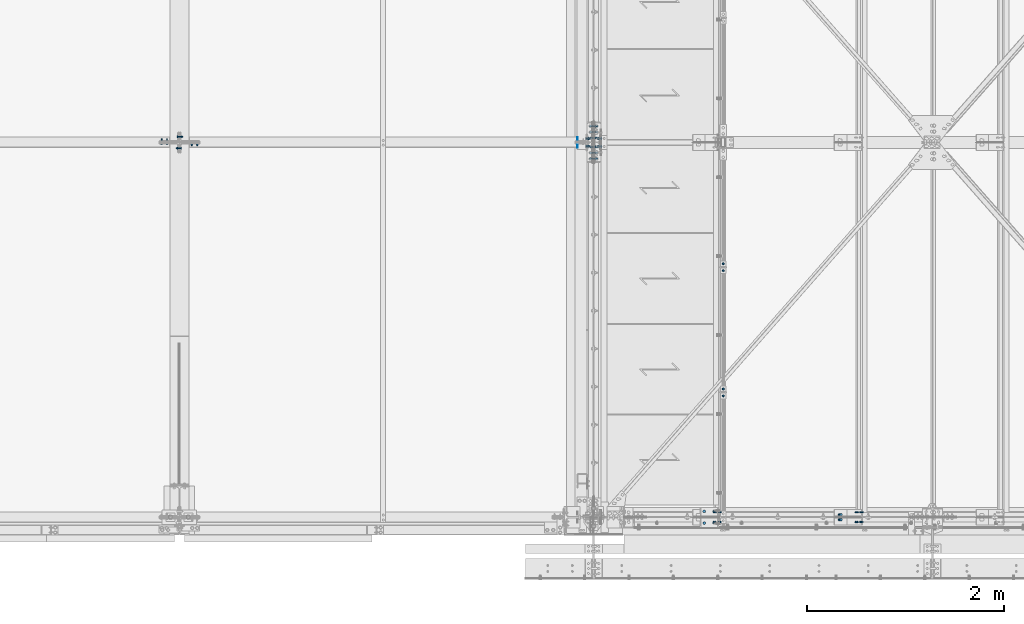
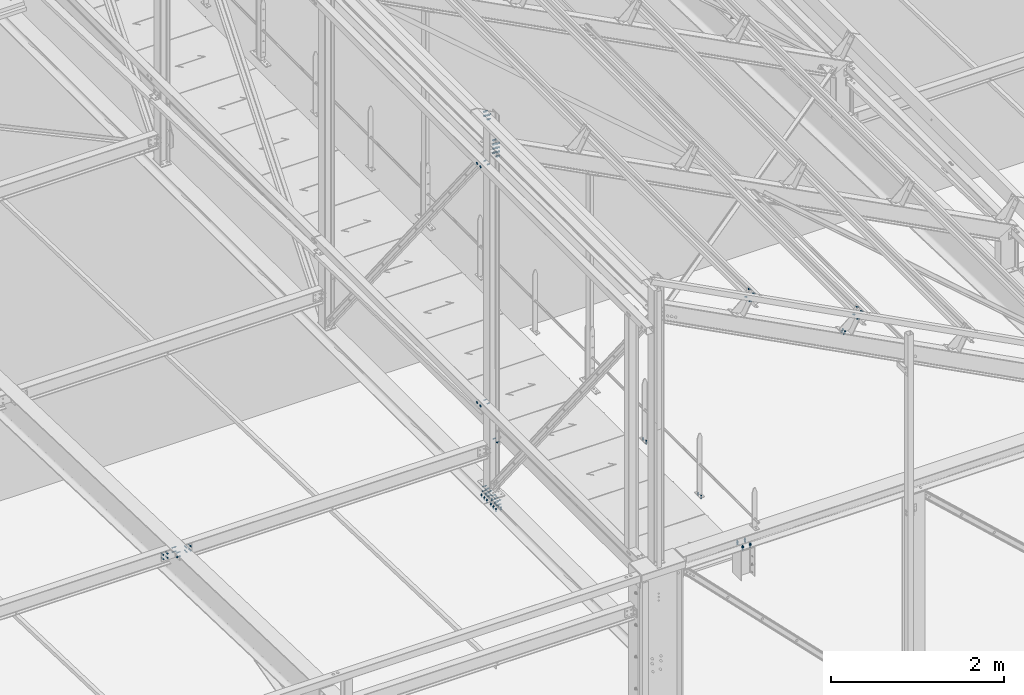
# One storey, part 147 of 362: 22 mechanical fasteners.
"""IFC2X3 building model written with IfcOpenShell, lengths in millimetres."""

from ifc_helpers import new_model, si_unit, frame, origin_with_axes, origin_2d_with_axis, place, context, subcontext, project, spatial, polyline, circle, outline, extrude, source, transform, mapped, material, type_object, element, save


model = new_model("IFC2X3")

# Units and contexts
model_context = context("Model", 3, precision=1e-05, world=origin_with_axes())
body_context = subcontext(model_context, "Body", "Model", "MODEL_VIEW")
ifc_project = project(units=[si_unit("LENGTHUNIT", "METRE", prefix="MILLI"), si_unit("AREAUNIT", "SQUARE_METRE"), si_unit("VOLUMEUNIT", "CUBIC_METRE"), si_unit("MASSUNIT", "GRAM", prefix="KILO"), si_unit("TIMEUNIT", "SECOND"), si_unit("PLANEANGLEUNIT", "RADIAN"), si_unit("SOLIDANGLEUNIT", "STERADIAN"), si_unit("THERMODYNAMICTEMPERATUREUNIT", "DEGREE_CELSIUS"), si_unit("LUMINOUSINTENSITYUNIT", "LUMEN")], contexts=[model_context])

# Site, building, storey
site_placement = place(None, origin_with_axes())
site = spatial("IfcSite", under=ifc_project, at=site_placement, Name="Undefined", CompositionType="ELEMENT")
building_placement = place(site_placement, origin_with_axes())
building = spatial("IfcBuilding", under=site, at=building_placement, Name="Undefined", CompositionType="ELEMENT")
storey_placement = place(building_placement, origin_with_axes())
storey = spatial("IfcBuildingStorey", under=building, at=storey_placement, Name="Undefined", CompositionType="ELEMENT", Elevation=0.0)

# Mechanical fasteners
ifc_material_1 = material(Name="6.8")
mechanical_fastener_type = type_object("IfcMechanicalFastenerType", Name="Bolt assembly")
shared_shape_1 = source(origin_with_axes(), body_context, "Body", "SweptSolid", [
    extrude(circle(Radius=15.0, at=origin_2d_with_axis()), frame((0.0, 0.0, 0.0), z_axis=(0.0, 1.0, 0.0), x_axis=(1.0, 0.0, 0.0)), (0.0, 0.0, 1.0), 4.1),
])
mechanical_fastener_1_placement = place(storey_placement, frame((12513.5000000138, 3800.0, 11870.0), z_axis=(0.0, 1.0, 0.0), x_axis=(0.0, 0.0, 1.0)))
element("IfcMechanicalFastener", 1, at=mechanical_fastener_1_placement, inside=storey, type_object=mechanical_fastener_type, material=ifc_material_1, Name="Bolt assembly", NominalDiameter=30.0, NominalLength=4.0, context=body_context, shape_type="MappedRepresentation", body=[
    mapped(shared_shape_1, transform((0.0, 0.0, 40.0))),
    mapped(shared_shape_1, transform((0.0, 0.0, -40.0))),
])
mechanical_fastener_2_placement = place(storey_placement, frame((12513.5000000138, 3800.0, 8500.0), z_axis=(0.0, -1.0, 0.0), x_axis=(0.0, 0.0, -1.0)))
element("IfcMechanicalFastener", 2, at=mechanical_fastener_2_placement, inside=storey, type_object=mechanical_fastener_type, material=ifc_material_1, Name="Bolt assembly", NominalDiameter=30.0, NominalLength=4.0, context=body_context, shape_type="MappedRepresentation", body=[
    mapped(shared_shape_1, transform((0.0, 0.0, -40.0))),
    mapped(shared_shape_1, transform((0.0, 0.0, 40.0))),
])
ifc_material_2 = material(Name="8.8-SB-ZINGUE")
shared_shape_2 = source(origin_with_axes(), body_context, "Body", "SweptSolid", [
    extrude(circle(Radius=7.0, at=origin_2d_with_axis()), frame((0.0, -10.0000010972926, 0.0), z_axis=(0.0, 1.0, 0.0), x_axis=(1.0, 0.0, 0.0)), (0.0, 0.0, 1.0), 10.1),
    extrude(outline(polyline([(10.39230484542, 0.0), (5.19615242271, 9.00000000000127), (-5.19615242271, 9.00000000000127), (-10.39230484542, 0.0), (-5.19615242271, -9.00000000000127), (5.19615242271, -9.00000000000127), (10.39230484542, 0.0)])), frame((0.0, -17.92, 0.0), z_axis=(0.0, 1.0, 0.0), x_axis=(1.0, 0.0, 0.0)), (0.0, 0.0, 1.0), 7.92),
    extrude(circle(Radius=6.0, at=origin_2d_with_axis()), frame((0.0, -10.0000010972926, 0.0), z_axis=(0.0, 1.0, 0.0), x_axis=(1.0, 0.0, 0.0)), (0.0, 0.0, 1.0), 40.0),
    extrude(outline(polyline([(11.5008173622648, 0.0), (5.7504086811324, 9.96000000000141), (-5.7504086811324, 9.96000000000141), (-11.5008173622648, 0.0), (-5.7504086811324, -9.96000000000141), (5.7504086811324, -9.96000000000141), (11.5008173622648, 0.0)])), frame((0.0, 0.0, 0.0), z_axis=(0.0, 1.0, 0.0), x_axis=(1.0, 0.0, 0.0)), (0.0, 0.0, 1.0), 7.92),
])
for number, where, z_axis, x_axis, name in (
    (3, (13993.9998835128, 1230.00344717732, 8240.00000643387), (-1.0, 0.0, 0.0), (0.0, 1.0, 0.0), "Bolt assembly"),
    (4, (13993.999884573, 2500.00344715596, 8240.00000555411), (-1.0, 0.0, 0.0), (0.0, 1.0, 0.0), "Bolt assembly"),
):
    element("IfcMechanicalFastener", number, at=place(storey_placement, frame(where, z_axis=z_axis, x_axis=x_axis)), inside=storey, type_object=mechanical_fastener_type, material=ifc_material_2, Name=name, NominalDiameter=12.0, NominalLength=40.0, context=body_context, shape_type="MappedRepresentation", body=[
        mapped(shared_shape_2, transform((0.0, 0.0, 0.0))),
        mapped(shared_shape_2, transform((70.0, -2.91038304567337e-11, 2.18278728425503e-10))),
    ])
shared_shape_3 = source(origin_with_axes(), body_context, "Body", "SweptSolid", [
    extrude(circle(Radius=7.0, at=origin_2d_with_axis()), frame((0.0, -0.091713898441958, 0.0), z_axis=(0.0, 1.0, 0.0), x_axis=(1.0, 0.0, 0.0)), (0.0, 0.0, 1.0), 8.6),
    extrude(circle(Radius=7.0, at=origin_2d_with_axis()), frame((0.0, -6.9, 0.0), z_axis=(0.0, 1.0, 0.0), x_axis=(1.0, 0.0, 0.0)), (0.0, 0.0, 1.0), 7.0),
    extrude(outline(polyline([(10.39230484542, 0.0), (5.19615242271, 9.00000000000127), (-5.19615242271, 9.00000000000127), (-10.39230484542, 0.0), (-5.19615242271, -9.00000000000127), (5.19615242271, -9.00000000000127), (10.39230484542, 0.0)])), frame((0.0, -14.92, 0.0), z_axis=(0.0, 1.0, 0.0), x_axis=(1.0, 0.0, 0.0)), (0.0, 0.0, 1.0), 7.92),
    extrude(circle(Radius=6.0, at=origin_2d_with_axis()), frame((0.0, -7.0, 0.0), z_axis=(0.0, 1.0, 0.0), x_axis=(1.0, 0.0, 0.0)), (0.0, 0.0, 1.0), 30.0),
    extrude(outline(polyline([(11.5008173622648, 0.0), (5.7504086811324, 9.96000000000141), (-5.7504086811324, 9.96000000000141), (-11.5008173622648, 0.0), (-5.7504086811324, -9.96000000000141), (5.7504086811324, -9.96000000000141), (11.5008173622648, 0.0)])), frame((0.0, 8.50828610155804, 0.0), z_axis=(0.0, 1.0, 0.0), x_axis=(1.0, 0.0, 0.0)), (0.0, 0.0, 1.0), 7.92),
])
mechanical_fastener_3_placement = place(storey_placement, frame((12746.5082861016, 3799.99999998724, 7910.00000000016), z_axis=(0.0, -1.0, 0.0), x_axis=(0.0, 0.0, 1.0)))
element("IfcMechanicalFastener", 5, at=mechanical_fastener_3_placement, inside=storey, type_object=mechanical_fastener_type, material=ifc_material_2, Name="Bolt assembly", NominalDiameter=12.0, NominalLength=30.0, context=body_context, shape_type="MappedRepresentation", body=[
    mapped(shared_shape_3, transform((0.0, 0.0, -40.0))),
    mapped(shared_shape_3, transform((0.0, 0.0, 40.0))),
])
shared_shape_4 = source(origin_with_axes(), body_context, "Body", "SweptSolid", [
    extrude(circle(Radius=7.0, at=origin_2d_with_axis()), frame((0.0, -4.69999899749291, 0.0), z_axis=(0.0, 1.0, 0.0), x_axis=(1.0, 0.0, 0.0)), (0.0, 0.0, 1.0), 9.4),
    extrude(circle(Radius=7.0, at=origin_2d_with_axis()), frame((0.0, 4.9000000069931, 0.0), z_axis=(0.0, 1.0, 0.0), x_axis=(1.0, 0.0, 0.0)), (0.0, 0.0, 1.0), 10.1),
    extrude(circle(Radius=7.0, at=origin_2d_with_axis()), frame((0.0, -14.899999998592, 0.0), z_axis=(0.0, 1.0, 0.0), x_axis=(1.0, 0.0, 0.0)), (0.0, 0.0, 1.0), 10.0),
    extrude(outline(polyline([(10.39230484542, 0.0), (5.19615242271, 9.00000000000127), (-5.19615242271, 9.00000000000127), (-10.39230484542, 0.0), (-5.19615242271, -9.00000000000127), (5.19615242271, -9.00000000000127), (10.39230484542, 0.0)])), frame((0.0, -22.919999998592, 0.0), z_axis=(0.0, 1.0, 0.0), x_axis=(1.0, 0.0, 0.0)), (0.0, 0.0, 1.0), 7.92),
    extrude(circle(Radius=6.0, at=origin_2d_with_axis()), frame((0.0, -14.999999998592, 0.0), z_axis=(0.0, 1.0, 0.0), x_axis=(1.0, 0.0, 0.0)), (0.0, 0.0, 1.0), 50.0),
    extrude(outline(polyline([(11.5008173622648, 0.0), (5.7504086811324, 9.96000000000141), (-5.7504086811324, 9.96000000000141), (-11.5008173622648, 0.0), (-5.7504086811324, -9.96000000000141), (5.7504086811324, -9.96000000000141), (11.5008173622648, 0.0)])), frame((0.0, 15.0000000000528, 0.0), z_axis=(0.0, 1.0, 0.0), x_axis=(1.0, 0.0, 0.0)), (0.0, 0.0, 1.0), 7.92),
])
mechanical_fastener_4_placement = place(storey_placement, frame((8480.0, 3857.97780378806, 7828.70871980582), z_axis=(7.58071938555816e-11, 0.0314107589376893, 0.999506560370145), x_axis=(0.0, -0.999506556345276, 0.031410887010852)))
element("IfcMechanicalFastener", 6, at=mechanical_fastener_4_placement, inside=storey, type_object=mechanical_fastener_type, material=ifc_material_2, Name="Bolt assembly", NominalDiameter=12.0, NominalLength=50.0, context=body_context, shape_type="MappedRepresentation", body=[
    mapped(shared_shape_4, transform((0.0, 0.0, -30.0))),
    mapped(shared_shape_4, transform((0.0, 0.0, 30.0))),
])
shared_shape_5 = source(origin_with_axes(), body_context, "Body", "SweptSolid", [
    extrude(circle(Radius=7.0, at=origin_2d_with_axis()), frame((0.0, -5.60090332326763, 0.0), z_axis=(0.0, 1.0, 0.0), x_axis=(1.0, 0.0, 0.0)), (0.0, 0.0, 1.0), 5.6),
    extrude(circle(Radius=7.0, at=origin_2d_with_axis()), frame((0.0, -15.7008623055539, 0.0), z_axis=(0.0, 1.0, 0.0), x_axis=(1.0, 0.0, 0.0)), (0.0, 0.0, 1.0), 10.0),
    extrude(circle(Radius=7.0, at=origin_2d_with_axis()), frame((0.0, 0.1, 0.0), z_axis=(0.0, 1.0, 0.0), x_axis=(1.0, 0.0, 0.0)), (0.0, 0.0, 1.0), 10.1),
    extrude(outline(polyline([(10.39230484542, 0.0), (5.19615242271, 9.00000000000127), (-5.19615242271, 9.00000000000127), (-10.39230484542, 0.0), (-5.19615242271, -9.00000000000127), (5.19615242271, -9.00000000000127), (10.39230484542, 0.0)])), frame((0.0, -23.7208623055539, 0.0), z_axis=(0.0, 1.0, 0.0), x_axis=(1.0, 0.0, 0.0)), (0.0, 0.0, 1.0), 7.92),
    extrude(circle(Radius=6.0, at=origin_2d_with_axis()), frame((0.0, -15.8008623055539, 0.0), z_axis=(0.0, 1.0, 0.0), x_axis=(1.0, 0.0, 0.0)), (0.0, 0.0, 1.0), 50.0),
    extrude(outline(polyline([(11.5008173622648, 0.0), (5.7504086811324, 9.96000000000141), (-5.7504086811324, 9.96000000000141), (-11.5008173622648, 0.0), (-5.7504086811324, -9.96000000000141), (5.7504086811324, -9.96000000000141), (11.5008173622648, 0.0)])), frame((0.0, 10.1999997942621, 0.0), z_axis=(0.0, 1.0, 0.0), x_axis=(1.0, 0.0, 0.0)), (0.0, 0.0, 1.0), 7.92),
])
mechanical_fastener_5_placement = place(storey_placement, frame((8300.00000000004, 3802.80504263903, 7830.44262439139), z_axis=(7.58071938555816e-11, 0.0314107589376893, 0.999506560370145), x_axis=(1.0, 0.0, 0.0)))
element("IfcMechanicalFastener", 7, at=mechanical_fastener_5_placement, inside=storey, type_object=mechanical_fastener_type, material=ifc_material_2, Name="Bolt assembly", NominalDiameter=12.0, NominalLength=50.0, context=body_context, shape_type="MappedRepresentation", body=[
    mapped(shared_shape_5, transform((0.0, 0.0, -30.0))),
    mapped(shared_shape_5, transform((55.0000000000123, 3.45607986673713e-11, -30.0000000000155))),
    mapped(shared_shape_5, transform((0.0, 0.0, 30.0))),
    mapped(shared_shape_5, transform((54.9999999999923, 3.45607986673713e-11, 29.9999999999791))),
])
shared_shape_6 = source(origin_with_axes(), body_context, "Body", "SweptSolid", [
    extrude(circle(Radius=7.0, at=origin_2d_with_axis()), frame((0.0, -4.69999899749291, 0.0), z_axis=(0.0, 1.0, 0.0), x_axis=(1.0, 0.0, 0.0)), (0.0, 0.0, 1.0), 9.4),
    extrude(circle(Radius=7.0, at=origin_2d_with_axis()), frame((0.0, -14.899999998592, 0.0), z_axis=(0.0, 1.0, 0.0), x_axis=(1.0, 0.0, 0.0)), (0.0, 0.0, 1.0), 10.0),
    extrude(circle(Radius=7.0, at=origin_2d_with_axis()), frame((0.0, 4.9000000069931, 0.0), z_axis=(0.0, 1.0, 0.0), x_axis=(1.0, 0.0, 0.0)), (0.0, 0.0, 1.0), 10.1),
    extrude(outline(polyline([(10.39230484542, 0.0), (5.19615242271, 9.00000000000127), (-5.19615242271, 9.00000000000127), (-10.39230484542, 0.0), (-5.19615242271, -9.00000000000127), (5.19615242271, -9.00000000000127), (10.39230484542, 0.0)])), frame((0.0, -22.919999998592, 0.0), z_axis=(0.0, 1.0, 0.0), x_axis=(1.0, 0.0, 0.0)), (0.0, 0.0, 1.0), 7.92),
    extrude(circle(Radius=6.0, at=origin_2d_with_axis()), frame((0.0, -14.999999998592, 0.0), z_axis=(0.0, 1.0, 0.0), x_axis=(1.0, 0.0, 0.0)), (0.0, 0.0, 1.0), 50.0),
    extrude(outline(polyline([(11.5008173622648, 0.0), (5.7504086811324, 9.96000000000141), (-5.7504086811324, 9.96000000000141), (-11.5008173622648, 0.0), (-5.7504086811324, -9.96000000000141), (5.7504086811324, -9.96000000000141), (11.5008173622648, 0.0)])), frame((0.0, 15.0000000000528, 0.0), z_axis=(0.0, 1.0, 0.0), x_axis=(1.0, 0.0, 0.0)), (0.0, 0.0, 1.0), 7.92),
])
mechanical_fastener_6_placement = place(storey_placement, frame((8480.0, 3742.03418260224, 7832.35244818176), z_axis=(7.58071938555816e-11, 0.0314107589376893, 0.999506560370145), x_axis=(3.14103090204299e-11, 0.999506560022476, -0.0314107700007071)))
element("IfcMechanicalFastener", 8, at=mechanical_fastener_6_placement, inside=storey, type_object=mechanical_fastener_type, material=ifc_material_2, Name="Bolt assembly", NominalDiameter=12.0, NominalLength=50.0, context=body_context, shape_type="MappedRepresentation", body=[
    mapped(shared_shape_6, transform((0.0, 0.0, -30.0))),
    mapped(shared_shape_6, transform((0.0, 0.0, 30.0))),
])
shared_shape_7 = source(origin_with_axes(), body_context, "Body", "SweptSolid", [
    extrude(circle(Radius=7.0, at=origin_2d_with_axis()), frame((0.0, -5.59995888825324, 0.0), z_axis=(0.0, 1.0, 0.0), x_axis=(1.0, 0.0, 0.0)), (0.0, 0.0, 1.0), 5.6),
    extrude(circle(Radius=7.0, at=origin_2d_with_axis()), frame((0.0, 0.1, 0.0), z_axis=(0.0, 1.0, 0.0), x_axis=(1.0, 0.0, 0.0)), (0.0, 0.0, 1.0), 10.1),
    extrude(circle(Radius=7.0, at=origin_2d_with_axis()), frame((0.0, -15.7008623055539, 0.0), z_axis=(0.0, 1.0, 0.0), x_axis=(1.0, 0.0, 0.0)), (0.0, 0.0, 1.0), 10.0),
    extrude(outline(polyline([(10.39230484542, 0.0), (5.19615242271, 9.00000000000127), (-5.19615242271, 9.00000000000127), (-10.39230484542, 0.0), (-5.19615242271, -9.00000000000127), (5.19615242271, -9.00000000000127), (10.39230484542, 0.0)])), frame((0.0, -23.7208623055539, 0.0), z_axis=(0.0, 1.0, 0.0), x_axis=(1.0, 0.0, 0.0)), (0.0, 0.0, 1.0), 7.92),
    extrude(circle(Radius=6.0, at=origin_2d_with_axis()), frame((0.0, -15.8008623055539, 0.0), z_axis=(0.0, 1.0, 0.0), x_axis=(1.0, 0.0, 0.0)), (0.0, 0.0, 1.0), 50.0),
    extrude(outline(polyline([(11.5008173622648, 0.0), (5.7504086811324, 9.96000000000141), (-5.7504086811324, 9.96000000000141), (-11.5008173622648, 0.0), (-5.7504086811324, -9.96000000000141), (5.7504086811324, -9.96000000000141), (11.5008173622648, 0.0)])), frame((0.0, 10.1999997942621, 0.0), z_axis=(0.0, 1.0, 0.0), x_axis=(1.0, 0.0, 0.0)), (0.0, 0.0, 1.0), 7.92),
])
mechanical_fastener_7_placement = place(storey_placement, frame((8660.0, 3797.20694410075, 7830.61855429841), z_axis=(7.58071938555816e-11, 0.0314107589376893, 0.999506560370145), x_axis=(-1.0, 0.0, 0.0)))
element("IfcMechanicalFastener", 9, at=mechanical_fastener_7_placement, inside=storey, type_object=mechanical_fastener_type, material=ifc_material_2, Name="Bolt assembly", NominalDiameter=12.0, NominalLength=50.0, context=body_context, shape_type="MappedRepresentation", body=[
    mapped(shared_shape_7, transform((0.0, 0.0, -30.0))),
    mapped(shared_shape_7, transform((55.0000000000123, 3.45607986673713e-11, -30.0000000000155))),
    mapped(shared_shape_7, transform((0.0, 0.0, 30.0))),
    mapped(shared_shape_7, transform((54.9999999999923, 3.45607986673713e-11, 29.9999999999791))),
])
shared_shape_8 = source(origin_with_axes(), body_context, "Body", "SweptSolid", [
    extrude(circle(Radius=9.0, at=origin_2d_with_axis()), frame((0.0, -0.100011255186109, 0.0), z_axis=(0.0, 1.0, 0.0), x_axis=(1.0, 0.0, 0.0)), (0.0, 0.0, 1.0), 10.1),
    extrude(circle(Radius=9.0, at=origin_2d_with_axis()), frame((0.0, -9.9, 0.0), z_axis=(0.0, 1.0, 0.0), x_axis=(1.0, 0.0, 0.0)), (0.0, 0.0, 1.0), 10.0),
    extrude(outline(polyline([(13.85640646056, 0.0), (6.92820323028, 12.0000000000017), (-6.92820323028, 12.0000000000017), (-13.85640646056, 0.0), (-6.92820323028, -12.0000000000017), (6.92820323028, -12.0000000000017), (13.85640646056, 0.0)])), frame((0.0, -20.5600000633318, 0.0), z_axis=(0.0, 1.0, 0.0), x_axis=(1.0, 0.0, 0.0)), (0.0, 0.0, 1.0), 10.56),
    extrude(circle(Radius=8.0, at=origin_2d_with_axis()), frame((0.0, -10.0000010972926, 0.0), z_axis=(0.0, 1.0, 0.0), x_axis=(1.0, 0.0, 0.0)), (0.0, 0.0, 1.0), 50.0),
    extrude(circle(Radius=14.4, at=origin_2d_with_axis()), frame((0.0, 10.0000000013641, 0.0), z_axis=(0.0, 1.0, 0.0), x_axis=(1.0, 0.0, 0.0)), (0.0, 0.0, 1.0), 5.28),
    extrude(outline(polyline([(15.3344231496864, 0.0), (7.6672115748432, 13.2800000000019), (-7.6672115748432, 13.2800000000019), (-15.3344231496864, 0.0), (-7.6672115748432, -13.2800000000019), (7.6672115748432, -13.2800000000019), (15.3344231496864, 0.0)])), frame((0.0, 15.2800000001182, 0.0), z_axis=(0.0, 1.0, 0.0), x_axis=(1.0, 0.0, 0.0)), (0.0, 0.0, 1.0), 10.56),
])
mechanical_fastener_8_placement = place(storey_placement, frame((13801.4998863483, 0.0, 8359.99525820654), z_axis=(0.0, -1.0, 0.0), x_axis=(1.0, 0.0, 0.0)))
element("IfcMechanicalFastener", 10, at=mechanical_fastener_8_placement, inside=storey, type_object=mechanical_fastener_type, material=ifc_material_2, Name="Bolt assembly", NominalDiameter=16.0, NominalLength=50.0, context=body_context, shape_type="MappedRepresentation", body=[
    mapped(shared_shape_8, transform((0.0, 0.0, -60.0))),
    mapped(shared_shape_8, transform((99.9999999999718, 0.0, -60.0000000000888))),
    mapped(shared_shape_8, transform((0.0, 0.0, 60.0))),
    mapped(shared_shape_8, transform((100.000000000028, 0.0, 59.9999999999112))),
])
shared_shape_9 = source(origin_with_axes(), body_context, "Body", "SweptSolid", [
    extrude(circle(Radius=7.0, at=origin_2d_with_axis()), frame((0.0, -0.100011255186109, 0.0), z_axis=(0.0, 1.0, 0.0), x_axis=(1.0, 0.0, 0.0)), (0.0, 0.0, 1.0), 1.6),
    extrude(circle(Radius=7.0, at=origin_2d_with_axis()), frame((0.0, -9.9, 0.0), z_axis=(0.0, 1.0, 0.0), x_axis=(1.0, 0.0, 0.0)), (0.0, 0.0, 1.0), 10.0),
    extrude(outline(polyline([(10.39230484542, 0.0), (5.19615242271, 9.00000000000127), (-5.19615242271, 9.00000000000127), (-10.39230484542, 0.0), (-5.19615242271, -9.00000000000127), (5.19615242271, -9.00000000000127), (10.39230484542, 0.0)])), frame((0.0, -17.92, 0.0), z_axis=(0.0, 1.0, 0.0), x_axis=(1.0, 0.0, 0.0)), (0.0, 0.0, 1.0), 7.92),
    extrude(circle(Radius=6.0, at=origin_2d_with_axis()), frame((0.0, -10.0000010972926, 0.0), z_axis=(0.0, 1.0, 0.0), x_axis=(1.0, 0.0, 0.0)), (0.0, 0.0, 1.0), 30.0),
    extrude(outline(polyline([(11.5008173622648, 0.0), (5.7504086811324, 9.96000000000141), (-5.7504086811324, 9.96000000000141), (-11.5008173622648, 0.0), (-5.7504086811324, -9.96000000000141), (5.7504086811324, -9.96000000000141), (11.5008173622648, 0.0)])), frame((0.0, 1.50001896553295, 0.0), z_axis=(0.0, 1.0, 0.0), x_axis=(1.0, 0.0, 0.0)), (0.0, 0.0, 1.0), 7.92),
])
for number, where, z_axis, x_axis, name in (
    (11, (13910.5352247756, 5.9655603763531e-05, 11798.7689104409), (0.0, 1.0, 0.0), (0.463528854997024, 6.99999093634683e-09, 0.886081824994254), "Bolt assembly"),
    (12, (15347.8352673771, 5.9655603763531e-05, 11046.8866202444), (0.0, 1.0, 0.0), (0.463528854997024, 6.99999093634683e-09, 0.886081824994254), "Bolt assembly"),
):
    element("IfcMechanicalFastener", number, at=place(storey_placement, frame(where, z_axis=z_axis, x_axis=x_axis)), inside=storey, type_object=mechanical_fastener_type, material=ifc_material_2, Name=name, NominalDiameter=12.0, NominalLength=30.0, context=body_context, shape_type="MappedRepresentation", body=[
        mapped(shared_shape_9, transform((0.0, 0.0, -50.0))),
        mapped(shared_shape_9, transform((102.00000000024, -2.51020537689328e-10, -50.0))),
        mapped(shared_shape_9, transform((0.0, 0.0, 50.0))),
        mapped(shared_shape_9, transform((102.00000000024, -2.51020537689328e-10, 50.0))),
    ])
shared_shape_10 = source(origin_with_axes(), body_context, "Body", "SweptSolid", [
    extrude(circle(Radius=9.0, at=origin_2d_with_axis()), frame((0.0, -0.100011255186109, 0.0), z_axis=(0.0, 1.0, 0.0), x_axis=(1.0, 0.0, 0.0)), (0.0, 0.0, 1.0), 9.9),
    extrude(circle(Radius=9.0, at=origin_2d_with_axis()), frame((0.0, -9.9, 0.0), z_axis=(0.0, 1.0, 0.0), x_axis=(1.0, 0.0, 0.0)), (0.0, 0.0, 1.0), 10.0),
    extrude(outline(polyline([(13.85640646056, 0.0), (6.92820323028, 12.0000000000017), (-6.92820323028, 12.0000000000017), (-13.85640646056, 0.0), (-6.92820323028, -12.0000000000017), (6.92820323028, -12.0000000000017), (13.85640646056, 0.0)])), frame((0.0, -20.5600000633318, 0.0), z_axis=(0.0, 1.0, 0.0), x_axis=(1.0, 0.0, 0.0)), (0.0, 0.0, 1.0), 10.56),
    extrude(circle(Radius=8.0, at=origin_2d_with_axis()), frame((0.0, -10.0000010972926, 0.0), z_axis=(0.0, 1.0, 0.0), x_axis=(1.0, 0.0, 0.0)), (0.0, 0.0, 1.0), 40.0),
    extrude(outline(polyline([(15.3344231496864, 0.0), (7.6672115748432, 13.2800000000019), (-7.6672115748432, 13.2800000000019), (-15.3344231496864, 0.0), (-7.6672115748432, -13.2800000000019), (7.6672115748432, -13.2800000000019), (15.3344231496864, 0.0)])), frame((0.0, 9.80000019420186, 0.0), z_axis=(0.0, 1.0, 0.0), x_axis=(1.0, 0.0, 0.0)), (0.0, 0.0, 1.0), 10.56),
])
mechanical_fastener_9_placement = place(storey_placement, frame((15180.0712405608, 3.75141407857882e-05, 10898.7777524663), z_axis=(0.0, 1.0, 0.0), x_axis=(0.886081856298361, 3.500000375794e-08, -0.463528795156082)))
element("IfcMechanicalFastener", 13, at=mechanical_fastener_9_placement, inside=storey, type_object=mechanical_fastener_type, material=ifc_material_2, Name="Bolt assembly", NominalDiameter=16.0, NominalLength=40.0, context=body_context, shape_type="MappedRepresentation", body=[
    mapped(shared_shape_10, transform((0.0, 0.0, -25.0))),
    mapped(shared_shape_10, transform((0.0, 0.0, 25.0))),
])
shared_shape_11 = source(origin_with_axes(), body_context, "Body", "SweptSolid", [
    extrude(circle(Radius=9.0, at=origin_2d_with_axis()), frame((0.0, -0.091713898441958, 0.0), z_axis=(0.0, 1.0, 0.0), x_axis=(1.0, 0.0, 0.0)), (0.0, 0.0, 1.0), 8.6),
    extrude(circle(Radius=9.0, at=origin_2d_with_axis()), frame((0.0, -9.89171439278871, 0.0), z_axis=(0.0, 1.0, 0.0), x_axis=(1.0, 0.0, 0.0)), (0.0, 0.0, 1.0), 10.0),
    extrude(outline(polyline([(13.85640646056, 0.0), (6.92820323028, 12.0000000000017), (-6.92820323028, 12.0000000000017), (-13.85640646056, 0.0), (-6.92820323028, -12.0000000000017), (6.92820323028, -12.0000000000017), (13.85640646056, 0.0)])), frame((0.0, -20.5517143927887, 0.0), z_axis=(0.0, 1.0, 0.0), x_axis=(1.0, 0.0, 0.0)), (0.0, 0.0, 1.0), 10.56),
    extrude(circle(Radius=8.0, at=origin_2d_with_axis()), frame((0.0, -9.99171439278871, 0.0), z_axis=(0.0, 1.0, 0.0), x_axis=(1.0, 0.0, 0.0)), (0.0, 0.0, 1.0), 40.0),
    extrude(outline(polyline([(15.3344231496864, 0.0), (7.6672115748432, 13.2800000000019), (-7.6672115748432, 13.2800000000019), (-15.3344231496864, 0.0), (-7.6672115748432, -13.2800000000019), (7.6672115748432, -13.2800000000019), (15.3344231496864, 0.0)])), frame((0.0, 8.50828610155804, 0.0), z_axis=(0.0, 1.0, 0.0), x_axis=(1.0, 0.0, 0.0)), (0.0, 0.0, 1.0), 10.56),
])
mechanical_fastener_10_placement = place(storey_placement, frame((12746.5082856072, 3760.0, 12031.1720690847), z_axis=(0.0, 0.0, 1.0), x_axis=(0.0, 1.0, 0.0)))
element("IfcMechanicalFastener", 14, at=mechanical_fastener_10_placement, inside=storey, type_object=mechanical_fastener_type, material=ifc_material_2, Name="Bolt assembly", NominalDiameter=16.0, NominalLength=40.0, context=body_context, shape_type="MappedRepresentation", body=[
    mapped(shared_shape_11, transform((-8.00355337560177e-11, 1.57342583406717e-10, -90.000000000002))),
    mapped(shared_shape_11, transform((80.0, 0.0, -90.0))),
    mapped(shared_shape_11, transform((0.0, 0.0, -30.0))),
    mapped(shared_shape_11, transform((80.0, 0.0, -30.0))),
    mapped(shared_shape_11, transform((0.0, 0.0, 30.0))),
    mapped(shared_shape_11, transform((80.0, 0.0, 30.0))),
    mapped(shared_shape_11, transform((8.36735125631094e-11, -1.5825207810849e-10, 90.0))),
    mapped(shared_shape_11, transform((80.0, 0.0, 90.0))),
])
shared_shape_12 = source(origin_with_axes(), body_context, "Body", "SweptSolid", [
    extrude(circle(Radius=7.0, at=origin_2d_with_axis()), frame((0.0, -3.89999843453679, 0.0), z_axis=(0.0, 1.0, 0.0), x_axis=(1.0, 0.0, 0.0)), (0.0, 0.0, 1.0), 4.0),
    extrude(circle(Radius=7.0, at=origin_2d_with_axis()), frame((0.0, -0.100011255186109, 0.0), z_axis=(0.0, 1.0, 0.0), x_axis=(1.0, 0.0, 0.0)), (0.0, 0.0, 1.0), 8.6),
    extrude(outline(polyline([(10.39230484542, 0.0), (5.19615242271, 9.00000000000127), (-5.19615242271, 9.00000000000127), (-10.39230484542, 0.0), (-5.19615242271, -9.00000000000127), (5.19615242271, -9.00000000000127), (10.39230484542, 0.0)])), frame((0.0, -11.9199984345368, 0.0), z_axis=(0.0, 1.0, 0.0), x_axis=(1.0, 0.0, 0.0)), (0.0, 0.0, 1.0), 7.92),
    extrude(circle(Radius=6.0, at=origin_2d_with_axis()), frame((0.0, -3.99999923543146, 0.0), z_axis=(0.0, 1.0, 0.0), x_axis=(1.0, 0.0, 0.0)), (0.0, 0.0, 1.0), 30.0),
    extrude(outline(polyline([(11.5008173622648, 0.0), (5.7504086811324, 9.96000000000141), (-5.7504086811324, 9.96000000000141), (-11.5008173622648, 0.0), (-5.7504086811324, -9.96000000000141), (5.7504086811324, -9.96000000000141), (11.5008173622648, 0.0)])), frame((0.0, 8.49999994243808, 0.0), z_axis=(0.0, 1.0, 0.0), x_axis=(1.0, 0.0, 0.0)), (0.0, 0.0, 1.0), 7.92),
])
for number, where, z_axis, x_axis, name in (
    (15, (12613.5, 3800.0, 11869.9999981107), (0.0, 1.0, 0.0), (0.0, 0.0, 1.0), "Bolt assembly"),
    (16, (12613.5, 3800.0, 8500.00000188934), (0.0, -1.0, 0.0), (0.0, 0.0, -1.0), "Bolt assembly"),
):
    element("IfcMechanicalFastener", number, at=place(storey_placement, frame(where, z_axis=z_axis, x_axis=x_axis)), inside=storey, type_object=mechanical_fastener_type, material=ifc_material_2, Name=name, NominalDiameter=12.0, NominalLength=30.0, context=body_context, shape_type="MappedRepresentation", body=[
        mapped(shared_shape_12, transform((0.0, 0.0, -40.0))),
        mapped(shared_shape_12, transform((0.0, 0.0, 40.0))),
    ])
shared_shape_13 = source(origin_with_axes(), body_context, "Body", "SweptSolid", [
    extrude(circle(Radius=9.0, at=origin_2d_with_axis()), frame((0.0, -0.100011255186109, 0.0), z_axis=(0.0, 1.0, 0.0), x_axis=(1.0, 0.0, 0.0)), (0.0, 0.0, 1.0), 8.6),
    extrude(circle(Radius=9.0, at=origin_2d_with_axis()), frame((0.0, -2.9, 0.0), z_axis=(0.0, 1.0, 0.0), x_axis=(1.0, 0.0, 0.0)), (0.0, 0.0, 1.0), 3.0),
    extrude(outline(polyline([(13.85640646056, 0.0), (6.92820323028, 12.0000000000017), (-6.92820323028, 12.0000000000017), (-13.85640646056, 0.0), (-6.92820323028, -12.0000000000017), (6.92820323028, -12.0000000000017), (13.85640646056, 0.0)])), frame((0.0, -13.56, 0.0), z_axis=(0.0, 1.0, 0.0), x_axis=(1.0, 0.0, 0.0)), (0.0, 0.0, 1.0), 10.56),
    extrude(circle(Radius=8.0, at=origin_2d_with_axis()), frame((0.0, -2.99999932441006, 0.0), z_axis=(0.0, 1.0, 0.0), x_axis=(1.0, 0.0, 0.0)), (0.0, 0.0, 1.0), 40.0),
    extrude(outline(polyline([(15.3344231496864, 0.0), (7.6672115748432, 13.2800000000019), (-7.6672115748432, 13.2800000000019), (-15.3344231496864, 0.0), (-7.6672115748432, -13.2800000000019), (7.6672115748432, -13.2800000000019), (15.3344231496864, 0.0)])), frame((0.0, 8.49999994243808, 0.0), z_axis=(0.0, 1.0, 0.0), x_axis=(1.0, 0.0, 0.0)), (0.0, 0.0, 1.0), 10.56),
])
for number, where, z_axis, x_axis, name in (
    (17, (12613.5000000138, 3839.99695097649, 12503.832072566), (0.0, 1.0, 0.0), (0.0, 0.0, 1.0), "Bolt assembly"),
    (18, (12613.5000000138, 3759.99999584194, 12503.832072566), (0.0, 1.0, 0.0), (0.0, 0.0, 1.0), "Bolt assembly"),
):
    element("IfcMechanicalFastener", number, at=place(storey_placement, frame(where, z_axis=z_axis, x_axis=x_axis)), inside=storey, type_object=mechanical_fastener_type, material=ifc_material_2, Name=name, NominalDiameter=16.0, NominalLength=40.0, context=body_context, shape_type="MappedRepresentation", body=[
        mapped(shared_shape_13, transform((0.0, 0.0, 0.0))),
        mapped(shared_shape_13, transform((60.0, 0.0, 0.0))),
    ])
shared_shape_14 = source(origin_with_axes(), body_context, "Body", "SweptSolid", [
    extrude(circle(Radius=6.0, at=origin_2d_with_axis()), frame((0.0, -3.25000000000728, 0.0), z_axis=(0.0, 1.0, 0.0), x_axis=(1.0, 0.0, 0.0)), (0.0, 0.0, 1.0), 6.5),
    extrude(circle(Radius=6.0, at=origin_2d_with_axis()), frame((0.0, -13.4000000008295, 0.0), z_axis=(0.0, 1.0, 0.0), x_axis=(1.0, 0.0, 0.0)), (0.0, 0.0, 1.0), 10.0),
    extrude(circle(Radius=6.0, at=origin_2d_with_axis()), frame((0.0, 3.40000111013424, 0.0), z_axis=(0.0, 1.0, 0.0), x_axis=(1.0, 0.0, 0.0)), (0.0, 0.0, 1.0), 10.1),
    extrude(outline(polyline([(10.39230484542, 0.0), (5.19615242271, 9.00000000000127), (-5.19615242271, 9.00000000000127), (-10.39230484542, 0.0), (-5.19615242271, -9.00000000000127), (5.19615242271, -9.00000000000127), (10.39230484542, 0.0)])), frame((0.0, -21.42, 0.0), z_axis=(0.0, 1.0, 0.0), x_axis=(1.0, 0.0, 0.0)), (0.0, 0.0, 1.0), 7.92),
    extrude(circle(Radius=6.0, at=origin_2d_with_axis()), frame((0.0, -13.4999650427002, 0.0), z_axis=(0.0, 1.0, 0.0), x_axis=(1.0, 0.0, 0.0)), (0.0, 0.0, 1.0), 50.0),
    extrude(outline(polyline([(11.5008173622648, 0.0), (5.7504086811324, 9.96000000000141), (-5.7504086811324, 9.96000000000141), (-11.5008173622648, 0.0), (-5.7504086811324, -9.96000000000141), (5.7504086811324, -9.96000000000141), (11.5008173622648, 0.0)])), frame((0.0, 13.4999999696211, 0.0), z_axis=(0.0, 1.0, 0.0), x_axis=(1.0, 0.0, 0.0)), (0.0, 0.0, 1.0), 7.92),
])
for number, where, z_axis, x_axis, name in (
    (19, (12680.0, 3635.00000000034, 7155.0000000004), (0.0, 0.0, -1.0), (0.0, 1.0, 0.0), "Bolt assembly"),
    (20, (12680.0, 3965.00000000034, 7155.00000000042), (0.0, 0.0, 1.0), (0.0, -1.0, 0.0), "Bolt assembly"),
):
    element("IfcMechanicalFastener", number, at=place(storey_placement, frame(where, z_axis=z_axis, x_axis=x_axis)), inside=storey, type_object=mechanical_fastener_type, material=ifc_material_2, Name=name, NominalDiameter=12.0, NominalLength=50.0, context=body_context, shape_type="MappedRepresentation", body=[
        mapped(shared_shape_14, transform((0.0, 0.0, -30.0))),
        mapped(shared_shape_14, transform((60.0, 0.0, -30.0))),
        mapped(shared_shape_14, transform((120.0, 0.0, -30.0))),
        mapped(shared_shape_14, transform((0.0, 0.0, 30.0))),
        mapped(shared_shape_14, transform((60.0, 0.0, 30.0))),
        mapped(shared_shape_14, transform((120.0, 0.0, 30.0))),
    ])
shared_shape_15 = source(origin_with_axes(), body_context, "Body", "SweptSolid", [
    extrude(circle(Radius=6.0, at=origin_2d_with_axis()), frame((0.0, -0.10007666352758, 0.0), z_axis=(0.0, 1.0, 0.0), x_axis=(1.0, 0.0, 0.0)), (0.0, 0.0, 1.0), 10.1),
    extrude(circle(Radius=6.0, at=origin_2d_with_axis()), frame((0.0, -9.9, 0.0), z_axis=(0.0, 1.0, 0.0), x_axis=(1.0, 0.0, 0.0)), (0.0, 0.0, 1.0), 10.0),
    extrude(outline(polyline([(10.39230484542, 0.0), (5.19615242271, 9.00000000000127), (-5.19615242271, 9.00000000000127), (-10.39230484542, 0.0), (-5.19615242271, -9.00000000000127), (5.19615242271, -9.00000000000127), (10.39230484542, 0.0)])), frame((0.0, -17.92, 0.0), z_axis=(0.0, 1.0, 0.0), x_axis=(1.0, 0.0, 0.0)), (0.0, 0.0, 1.0), 7.92),
    extrude(circle(Radius=6.0, at=origin_2d_with_axis()), frame((0.0, -10.0000010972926, 0.0), z_axis=(0.0, 1.0, 0.0), x_axis=(1.0, 0.0, 0.0)), (0.0, 0.0, 1.0), 40.0),
    extrude(outline(polyline([(11.5008173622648, 0.0), (5.7504086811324, 9.96000000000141), (-5.7504086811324, 9.96000000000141), (-11.5008173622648, 0.0), (-5.7504086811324, -9.96000000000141), (5.7504086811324, -9.96000000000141), (11.5008173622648, 0.0)])), frame((0.0, 9.9999101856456, 0.0), z_axis=(0.0, 1.0, 0.0), x_axis=(1.0, 0.0, 0.0)), (0.0, 0.0, 1.0), 7.92),
])
mechanical_fastener_11_placement = place(storey_placement, frame((12680.0, 3964.99692211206, 7060.00003157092), z_axis=(-1.0, 0.0, 0.0), x_axis=(0.0, -1.0, 0.0)))
element("IfcMechanicalFastener", 21, at=mechanical_fastener_11_placement, inside=storey, type_object=mechanical_fastener_type, material=ifc_material_2, Name="Bolt assembly", NominalDiameter=12.0, NominalLength=40.0, context=body_context, shape_type="MappedRepresentation", body=[
    mapped(shared_shape_15, transform((0.0, 0.0, -32.5))),
    mapped(shared_shape_15, transform((60.0, 0.0, -32.5))),
    mapped(shared_shape_15, transform((120.0, 0.0, -32.5))),
    mapped(shared_shape_15, transform((0.0, 0.0, 32.5))),
    mapped(shared_shape_15, transform((60.0, 0.0, 32.5))),
    mapped(shared_shape_15, transform((120.0, 0.0, 32.5))),
])
mechanical_fastener_12_placement = place(storey_placement, frame((12680.0, 3635.00000000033, 7060.0000315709), z_axis=(1.0, 0.0, 0.0), x_axis=(0.0, 1.0, 0.0)))
element("IfcMechanicalFastener", 22, at=mechanical_fastener_12_placement, inside=storey, type_object=mechanical_fastener_type, material=ifc_material_2, Name="Bolt assembly", NominalDiameter=12.0, NominalLength=40.0, context=body_context, shape_type="MappedRepresentation", body=[
    mapped(shared_shape_15, transform((0.0, 0.0, 32.5))),
    mapped(shared_shape_15, transform((60.0, 0.0, 32.5))),
    mapped(shared_shape_15, transform((120.0, 0.0, 32.5))),
    mapped(shared_shape_15, transform((0.0, 0.0, -32.5))),
    mapped(shared_shape_15, transform((60.0, 0.0, -32.5))),
    mapped(shared_shape_15, transform((120.0, 0.0, -32.5))),
])

save(model, "model.ifc")
